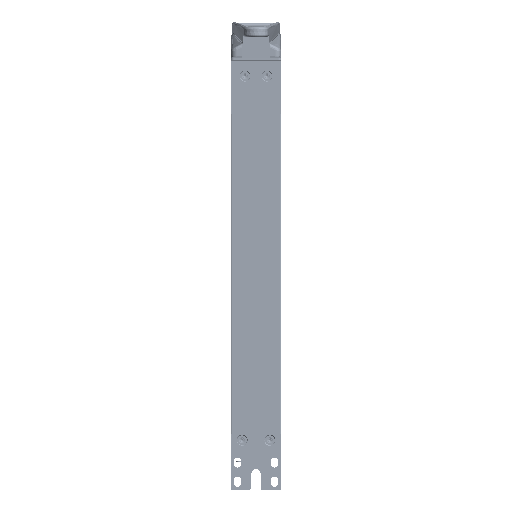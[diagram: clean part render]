
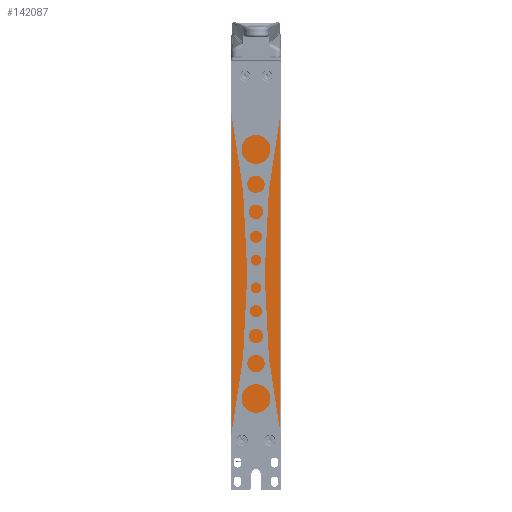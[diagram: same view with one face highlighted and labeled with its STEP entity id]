
A CAD part, left-side view. The second image highlights one B-rep face of the part: STEP entity #142087.
In plain terms, the highlighted planar face has unit normal (-1, 0, 0) as drawn and (1, 0, 0) by its records, which use the part's own axes.
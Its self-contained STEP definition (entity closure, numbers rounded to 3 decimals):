
#5478=LINE('',#242524,#14523);
#5481=LINE('',#242542,#14526);
#5482=LINE('',#242546,#14527);
#5483=LINE('',#242548,#14528);
#14523=VECTOR('',#198155,1000.);
#14526=VECTOR('',#198172,1000.);
#14527=VECTOR('',#198175,1000.);
#14528=VECTOR('',#198176,1000.);
#28372=PLANE('',#180870);
#33953=ORIENTED_EDGE('',*,*,#76850,.T.);
#33954=ORIENTED_EDGE('',*,*,#76851,.T.);
#33955=ORIENTED_EDGE('',*,*,#76852,.T.);
#33956=ORIENTED_EDGE('',*,*,#76853,.T.);
#33957=ORIENTED_EDGE('',*,*,#76854,.T.);
#33958=ORIENTED_EDGE('',*,*,#76855,.T.);
#33959=ORIENTED_EDGE('',*,*,#76845,.T.);
#33960=ORIENTED_EDGE('',*,*,#76856,.T.);
#33961=ORIENTED_EDGE('',*,*,#76857,.F.);
#76845=EDGE_CURVE('',#98544,#98545,#5478,.T.);
#76850=EDGE_CURVE('',#98548,#98548,#111581,.T.);
#76851=EDGE_CURVE('',#98549,#98549,#111582,.T.);
#76852=EDGE_CURVE('',#98550,#98550,#111583,.T.);
#76853=EDGE_CURVE('',#98551,#98551,#111584,.T.);
#76854=EDGE_CURVE('',#98552,#98553,#5481,.T.);
#76855=EDGE_CURVE('',#98553,#98544,#111585,.T.);
#76856=EDGE_CURVE('',#98545,#98554,#5482,.T.);
#76857=EDGE_CURVE('',#98552,#98554,#5483,.F.);
#98544=VERTEX_POINT('',#242525);
#98545=VERTEX_POINT('',#242526);
#98548=VERTEX_POINT('',#242535);
#98549=VERTEX_POINT('',#242537);
#98550=VERTEX_POINT('',#242539);
#98551=VERTEX_POINT('',#242541);
#98552=VERTEX_POINT('',#242543);
#98553=VERTEX_POINT('',#242544);
#98554=VERTEX_POINT('',#242547);
#111581=CIRCLE('',#180871,3.);
#111582=CIRCLE('',#180872,3.);
#111583=CIRCLE('',#180873,3.);
#111584=CIRCLE('',#180874,3.);
#111585=CIRCLE('',#180875,1.5);
#119313=EDGE_LOOP('',(#33953));
#119314=EDGE_LOOP('',(#33954));
#119315=EDGE_LOOP('',(#33955));
#119316=EDGE_LOOP('',(#33956));
#119317=EDGE_LOOP('',(#33957,#33958,#33959,#33960,#33961));
#129673=FACE_BOUND('',#119313,.T.);
#129674=FACE_BOUND('',#119314,.T.);
#129675=FACE_BOUND('',#119315,.T.);
#129676=FACE_BOUND('',#119316,.T.);
#129677=FACE_BOUND('',#119317,.T.);
#142087=ADVANCED_FACE('',(#129673,#129674,#129675,#129676,#129677),#28372,
 .T.);
#180870=AXIS2_PLACEMENT_3D('',#242533,#198162,#198163);
#180871=AXIS2_PLACEMENT_3D('',#242534,#198164,#198165);
#180872=AXIS2_PLACEMENT_3D('',#242536,#198166,#198167);
#180873=AXIS2_PLACEMENT_3D('',#242538,#198168,#198169);
#180874=AXIS2_PLACEMENT_3D('',#242540,#198170,#198171);
#180875=AXIS2_PLACEMENT_3D('',#242545,#198173,#198174);
#198155=DIRECTION('',(0.,0.,1.));
#198162=DIRECTION('',(1.,0.,0.));
#198163=DIRECTION('',(0.,0.,-1.));
#198164=DIRECTION('',(-1.,0.,0.));
#198165=DIRECTION('',(0.,0.,-1.));
#198166=DIRECTION('',(-1.,0.,0.));
#198167=DIRECTION('',(0.,0.,-1.));
#198168=DIRECTION('',(-1.,0.,0.));
#198169=DIRECTION('',(0.,0.,-1.));
#198170=DIRECTION('',(-1.,0.,0.));
#198171=DIRECTION('',(0.,0.,-1.));
#198172=DIRECTION('',(0.,1.,0.));
#198173=DIRECTION('',(1.,0.,0.));
#198174=DIRECTION('',(0.,0.,-1.));
#198175=DIRECTION('',(0.,-1.,0.));
#198176=DIRECTION('',(0.,0.,-1.));
#242524=CARTESIAN_POINT('',(217.65,169.7,-0.657));
#242525=CARTESIAN_POINT('',(217.65,169.7,-41.5));
#242526=CARTESIAN_POINT('',(217.65,169.7,-1.1));
#242533=CARTESIAN_POINT('',(217.65,0.,0.));
#242534=CARTESIAN_POINT('',(217.65,-156.25,-34.));
#242535=CARTESIAN_POINT('',(217.65,-156.25,-37.));
#242536=CARTESIAN_POINT('',(217.65,-156.25,-10.));
#242537=CARTESIAN_POINT('',(217.65,-156.25,-13.));
#242538=CARTESIAN_POINT('',(217.65,158.5,-31.5));
#242539=CARTESIAN_POINT('',(217.65,158.5,-34.5));
#242540=CARTESIAN_POINT('',(217.65,158.5,-12.5));
#242541=CARTESIAN_POINT('',(217.65,158.5,-15.5));
#242542=CARTESIAN_POINT('',(217.65,-169.7,-43.));
#242543=CARTESIAN_POINT('',(217.65,-169.4,-43.));
#242544=CARTESIAN_POINT('',(217.65,168.2,-43.));
#242545=CARTESIAN_POINT('',(217.65,168.2,-41.5));
#242546=CARTESIAN_POINT('',(217.65,169.7,-1.1));
#242547=CARTESIAN_POINT('',(217.65,-169.4,-1.1));
#242548=CARTESIAN_POINT('',(217.65,-169.4,-43.));
